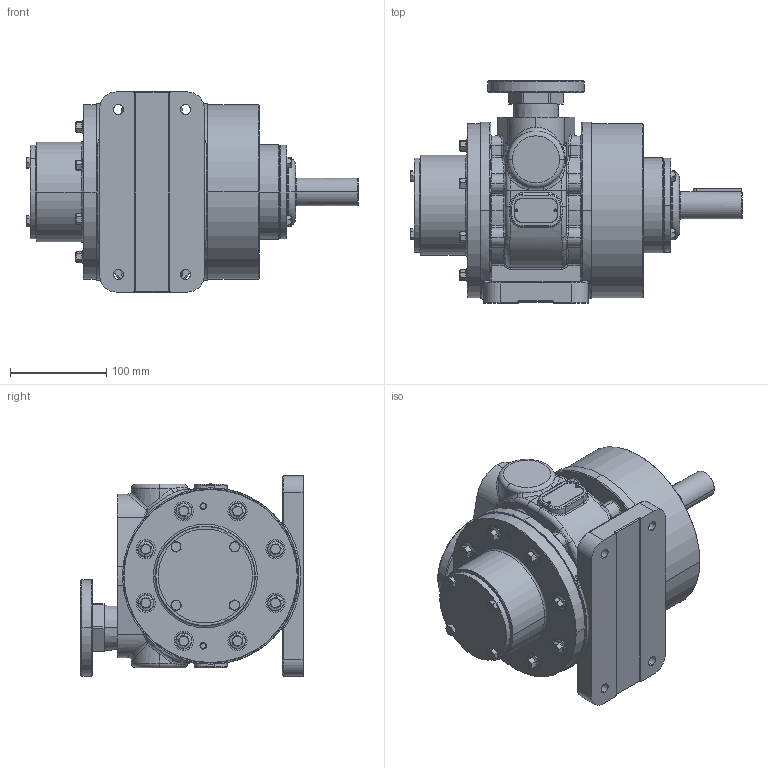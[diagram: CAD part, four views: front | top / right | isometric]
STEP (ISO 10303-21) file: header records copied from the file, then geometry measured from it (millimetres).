
FILE_DESCRIPTION (( 'STEP AP203' ), '1' );
FILE_NAME ('16VMS-Foot (Alu. End Plates)_24-04-26.STEP', '2026-04-24T07:00:24', ( '' ), ( '' ), 'SwSTEP 2.0', 'SolidWorks 2017', '' );
FILE_SCHEMA (( 'CONFIG_CONTROL_DESIGN' ));
Products named in the file (2): 16VMS-Foot (Alu. End Plates)_24-04-26
Bounding box: 345.28 x 231 x 208 mm (x, y, z)
Volume: 2426940.3 mm3; surface area: 590104.2 mm2
Topology: 40 solids, 50 shells, 1952 faces, 4456 edges, 2591 vertices
Faces by surface type: cylinder 585, plane 456, cone 435, torus 220, bspline 210, sphere 46
Entity records: 333601 total; most frequent: CARTESIAN_POINT 202326, ORIENTED_EDGE 29868, DIRECTION 20662, EDGE_CURVE 14934, VERTEX_POINT 9553, EDGE_LOOP 8709, AXIS2_PLACEMENT_3D 7807, B_SPLINE_CURVE_WITH_KNOTS 7355
